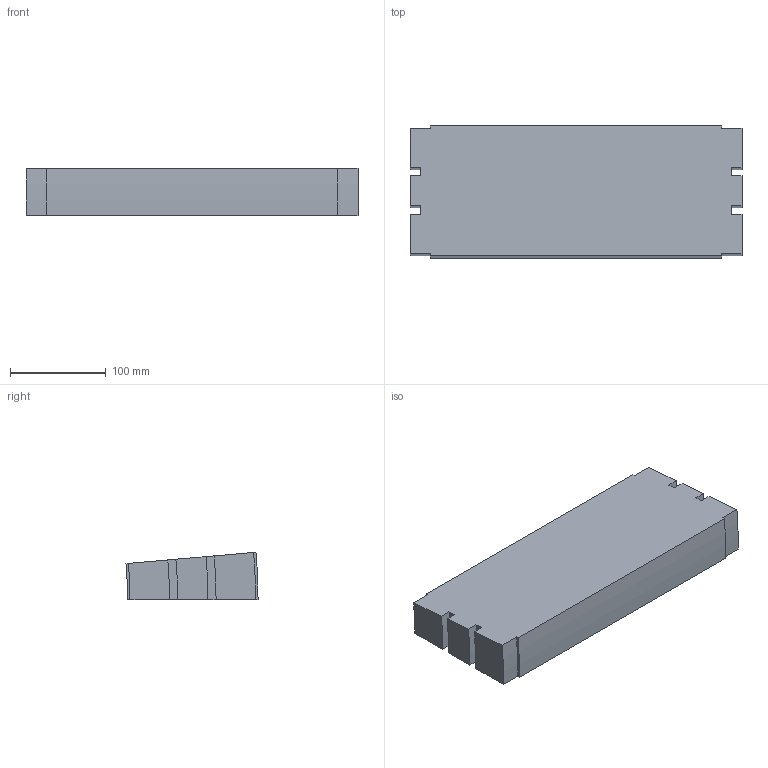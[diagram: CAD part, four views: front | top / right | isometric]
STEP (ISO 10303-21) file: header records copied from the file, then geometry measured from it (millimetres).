
FILE_DESCRIPTION (( 'STEP AP214' ), '1' );
FILE_NAME ('02.150V05.350.N FS-350-MTC-150 Bocht verticaal 5°.STEP', '2013-03-21T10:47:54', ( 'Gebruiker' ), ( '' ), 'SwSTEP 2.0', 'SolidWorks 2012', '' );
FILE_SCHEMA (( 'AUTOMOTIVE_DESIGN' ));
Length unit declared in the file: millimetre
Products named in the file (1): 02.150V05.350.N FS-350-MTC-150 Bocht verticaal 5°
Bounding box: 346 x 137.64 x 49.5 mm (x, y, z)
Volume: 2027723.5 mm3; surface area: 138846.2 mm2
Topology: 1 solids, 1 shells, 30 faces, 84 edges, 56 vertices
Faces by surface type: plane 16, cylinder 14
Entity records: 1010 total; most frequent: DIRECTION 174, CARTESIAN_POINT 171, ORIENTED_EDGE 168, EDGE_CURVE 84, AXIS2_PLACEMENT_3D 59, VECTOR 56, LINE 56, VERTEX_POINT 56
